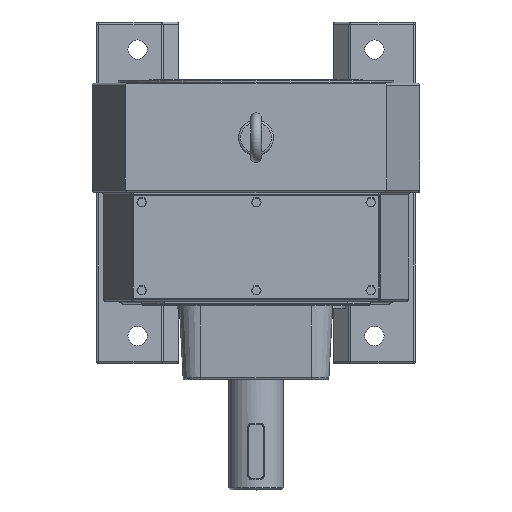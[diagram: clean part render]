
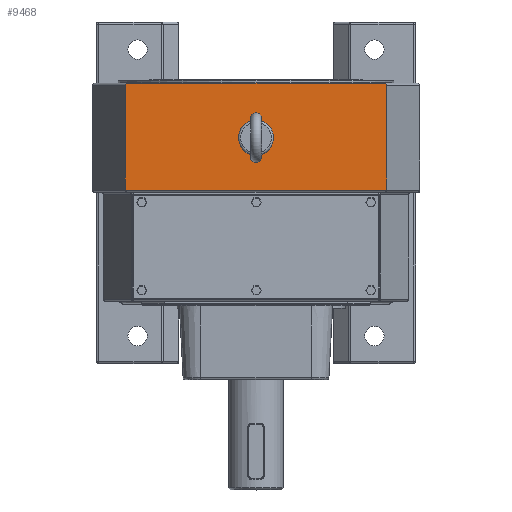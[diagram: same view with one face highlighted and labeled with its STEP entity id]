
A CAD part, top view. The second image highlights one B-rep face of the part: STEP entity #9468.
In plain terms, the highlighted planar face has unit normal (0, 0, 1).
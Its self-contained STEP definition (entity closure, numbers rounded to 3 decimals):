
#875=CARTESIAN_POINT('',(16.,49.5,295.0));
#876=VERTEX_POINT('',#875);
#877=CARTESIAN_POINT('',(0.,49.5,295.0));
#878=DIRECTION('',(0.0,0.0,-1.0));
#879=DIRECTION('',(0.707,0.707,0.0));
#880=AXIS2_PLACEMENT_3D('',#877,#878,#879);
#881=CIRCLE('',#880,16.0);
#882=EDGE_CURVE('',#876,#876,#881,.F.);
#2350=CARTESIAN_POINT('',(-118.5,97.,295.));
#2351=VERTEX_POINT('',#2350);
#2352=CARTESIAN_POINT('',(-116.264,99.0,295.));
#2353=VERTEX_POINT('',#2352);
#2354=CARTESIAN_POINT('',(-116.264,97.,295.));
#2355=DIRECTION('',(0.0,0.0,-1.0));
#2356=DIRECTION('',(-1.0,0.0,0.0));
#2357=AXIS2_PLACEMENT_3D('',#2354,#2355,#2356);
#2358=ELLIPSE('',#2357,2.236,2.0);
#2359=EDGE_CURVE('',#2351,#2353,#2358,.T.);
#2597=CARTESIAN_POINT('',(116.264,99.0,295.));
#2598=VERTEX_POINT('',#2597);
#2599=CARTESIAN_POINT('',(116.264,99.0,295.0));
#2600=DIRECTION('',(-1.0,0.0,0.0));
#2601=VECTOR('',#2600,232.528);
#2602=LINE('',#2599,#2601);
#2603=EDGE_CURVE('',#2598,#2353,#2602,.T.);
#2854=CARTESIAN_POINT('',(118.5,97.,295.));
#2855=VERTEX_POINT('',#2854);
#2856=CARTESIAN_POINT('',(116.264,97.,295.));
#2857=DIRECTION('',(0.0,0.0,-1.0));
#2858=DIRECTION('',(1.0,0.0,0.0));
#2859=AXIS2_PLACEMENT_3D('',#2856,#2857,#2858);
#2860=ELLIPSE('',#2859,2.236,2.);
#2861=EDGE_CURVE('',#2598,#2855,#2860,.T.);
#3088=CARTESIAN_POINT('',(-118.5,2.0,295.));
#3089=VERTEX_POINT('',#3088);
#3120=CARTESIAN_POINT('',(118.5,2.,295.));
#3121=VERTEX_POINT('',#3120);
#3129=CARTESIAN_POINT('',(118.5,2.,295.));
#3130=DIRECTION('',(-1.0,0.0,0.0));
#3131=VECTOR('',#3130,237.0);
#3132=LINE('',#3129,#3131);
#3133=EDGE_CURVE('',#3121,#3089,#3132,.T.);
#9442=CARTESIAN_POINT('',(0.0,0.0,295.0));
#9443=DIRECTION('',(0.0,0.0,1.0));
#9444=DIRECTION('',(1.0,0.0,0.0));
#9445=AXIS2_PLACEMENT_3D('',#9442,#9443,#9444);
#9446=PLANE('',#9445);
#9447=ORIENTED_EDGE('',*,*,#2359,.F.);
#9448=CARTESIAN_POINT('',(-118.5,2.0,295.));
#9449=DIRECTION('',(0.0,1.0,0.0));
#9450=VECTOR('',#9449,95.);
#9451=LINE('',#9448,#9450);
#9452=EDGE_CURVE('',#3089,#2351,#9451,.T.);
#9453=ORIENTED_EDGE('',*,*,#9452,.F.);
#9454=ORIENTED_EDGE('',*,*,#3133,.F.);
#9455=CARTESIAN_POINT('',(118.5,2.,295.));
#9456=DIRECTION('',(0.0,1.0,0.0));
#9457=VECTOR('',#9456,95.);
#9458=LINE('',#9455,#9457);
#9459=EDGE_CURVE('',#3121,#2855,#9458,.T.);
#9460=ORIENTED_EDGE('',*,*,#9459,.T.);
#9461=ORIENTED_EDGE('',*,*,#2861,.F.);
#9462=ORIENTED_EDGE('',*,*,#2603,.T.);
#9463=EDGE_LOOP('',(#9447,#9453,#9454,#9460,#9461,#9462));
#9464=FACE_OUTER_BOUND('',#9463,.T.);
#9465=ORIENTED_EDGE('',*,*,#882,.F.);
#9466=EDGE_LOOP('',(#9465));
#9467=FACE_BOUND('',#9466,.T.);
#9468=ADVANCED_FACE('',(#9464,#9467),#9446,.T.);
